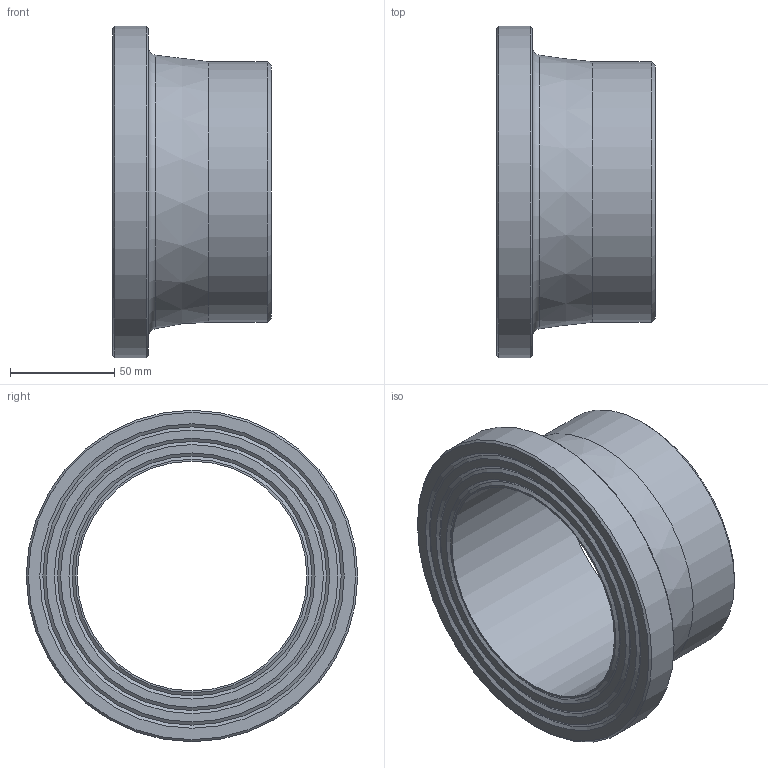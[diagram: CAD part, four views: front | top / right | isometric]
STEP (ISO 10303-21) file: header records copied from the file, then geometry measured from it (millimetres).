
FILE_DESCRIPTION(/* description */ ('Unknown'),/* implementation_level */ '2;1');
FILE_NAME(/* name */ 'CCP125B',/* time_stamp */ '2022-04-04T16:10:48+02:00',/* author */ ('Unknown'),/* organization */ ('Unknown'),/* preprocessor_version */ 'ST-DEVELOPER v18.1',/* originating_system */ 'Solid Edge',/* authorisation */ 'Unknown');
FILE_SCHEMA (('AUTOMOTIVE_DESIGN {1 0 10303 214 3 1 1}'));
Length unit declared in the file: millimetre
Products named in the file (1): CCP125B
Bounding box: 76 x 159 x 159 mm (x, y, z)
Volume: 354805.9 mm3; surface area: 76892.5 mm2
Topology: 1 solids, 1 shells, 20 faces, 35 edges, 21 vertices
Faces by surface type: cone 10, plane 6, cylinder 3, torus 1
Full cylindrical faces by diameter (mm): 110.2 x1, 125 x1, 159 x1
Entity records: 438 total; most frequent: DIRECTION 82, CARTESIAN_POINT 61, AXIS2_PLACEMENT_3D 41, ORIENTED_EDGE 40, EDGE_LOOP 40, FACE_BOUND 40, EDGE_CURVE 20, VERTEX_POINT 20
